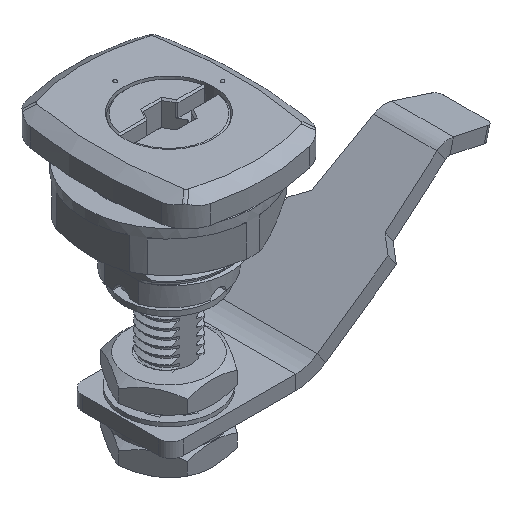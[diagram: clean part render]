
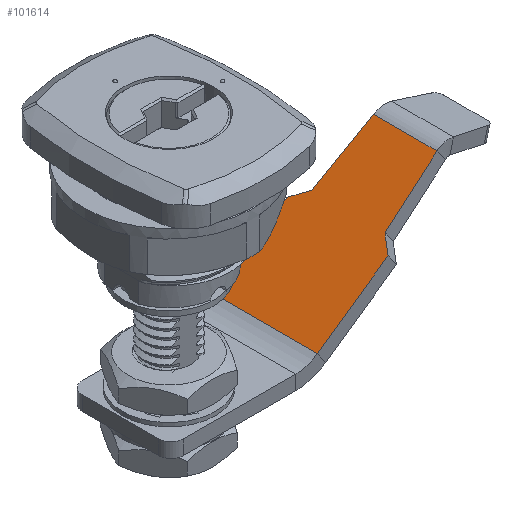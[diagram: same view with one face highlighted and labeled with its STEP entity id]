
A CAD part, isometric view. The second image highlights one B-rep face of the part: STEP entity #101614.
In plain terms, the highlighted planar face has unit normal (-0.574, 0, 0.819).
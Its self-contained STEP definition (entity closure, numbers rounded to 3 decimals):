
#497 = CARTESIAN_POINT ( 'NONE',  ( -4.253, 8.05, -49.486 ) ) ;
#2579 = VERTEX_POINT ( 'NONE', #30396 ) ;
#2926 = VECTOR ( 'NONE', #31905, 1000. ) ;
#3237 = ORIENTED_EDGE ( 'NONE', *, *, #18317, .F. ) ;
#4458 = DIRECTION ( 'NONE',  ( -0.574, 0., 0.819 ) ) ;
#4585 = CARTESIAN_POINT ( 'NONE',  ( 20.703, 6.529, -32.012 ) ) ;
#4709 = VECTOR ( 'NONE', #12491, 1000. ) ;
#6988 = VECTOR ( 'NONE', #54350, 1000. ) ;
#7574 = VECTOR ( 'NONE', #21313, 1000. ) ;
#8483 = VERTEX_POINT ( 'NONE', #84833 ) ;
#8911 = AXIS2_PLACEMENT_3D ( 'NONE', #34586, #4458, #86905 ) ;
#11534 = LINE ( 'NONE', #91393, #61315 ) ;
#12491 = DIRECTION ( 'NONE',  ( 0.817, -0.071, 0.572 ) ) ;
#13153 = LINE ( 'NONE', #94927, #6988 ) ;
#15509 = CARTESIAN_POINT ( 'NONE',  ( 28.513, -5.85, -26.543 ) ) ;
#18317 = EDGE_CURVE ( 'NONE', #36544, #57942, #13153, .T. ) ;
#21313 = DIRECTION ( 'NONE',  ( 0.819, 0., 0.574 ) ) ;
#24853 = CARTESIAN_POINT ( 'NONE',  ( 15.558, 0., -35.615 ) ) ;
#28157 = ORIENTED_EDGE ( 'NONE', *, *, #52645, .T. ) ;
#30353 = CARTESIAN_POINT ( 'NONE',  ( 27.002, -7.784, -27.602 ) ) ;
#30396 = CARTESIAN_POINT ( 'NONE',  ( 37.583, -5.061, -20.193 ) ) ;
#30688 = EDGE_CURVE ( 'NONE', #39794, #2579, #11534, .T. ) ;
#31905 = DIRECTION ( 'NONE',  ( -0.819, 0., -0.574 ) ) ;
#33700 = CARTESIAN_POINT ( 'NONE',  ( 37.583, 5.061, -20.193 ) ) ;
#34586 = CARTESIAN_POINT ( 'NONE',  ( 20.322, 0., -32.279 ) ) ;
#35400 = EDGE_CURVE ( 'NONE', #110600, #8483, #92989, .T. ) ;
#36544 = VERTEX_POINT ( 'NONE', #100068 ) ;
#39794 = VERTEX_POINT ( 'NONE', #33700 ) ;
#40172 = LINE ( 'NONE', #30353, #107408 ) ;
#40233 = VECTOR ( 'NONE', #92065, 1000. ) ;
#42374 = VERTEX_POINT ( 'NONE', #15509 ) ;
#42927 = CARTESIAN_POINT ( 'NONE',  ( -4.253, -8.05, -49.486 ) ) ;
#43239 = DIRECTION ( 'NONE',  ( 0., 1., 0. ) ) ;
#52645 = EDGE_CURVE ( 'NONE', #36544, #8483, #110494, .T. ) ;
#52770 = LINE ( 'NONE', #93369, #40233 ) ;
#53781 = EDGE_CURVE ( 'NONE', #113933, #42374, #40172, .T. ) ;
#54350 = DIRECTION ( 'NONE',  ( 0.566, -0.723, 0.396 ) ) ;
#57942 = VERTEX_POINT ( 'NONE', #79515 ) ;
#59376 = ORIENTED_EDGE ( 'NONE', *, *, #53781, .T. ) ;
#60842 = ORIENTED_EDGE ( 'NONE', *, *, #30688, .F. ) ;
#61315 = VECTOR ( 'NONE', #96523, 1000. ) ;
#65315 = PLANE ( 'NONE',  #8911 ) ;
#73240 = VECTOR ( 'NONE', #43239, 1000. ) ;
#75794 = ORIENTED_EDGE ( 'NONE', *, *, #94436, .F. ) ;
#76906 = EDGE_CURVE ( 'NONE', #110600, #113933, #82199, .T. ) ;
#77080 = FACE_OUTER_BOUND ( 'NONE', #127664, .T. ) ;
#79515 = CARTESIAN_POINT ( 'NONE',  ( 28.513, 5.85, -26.543 ) ) ;
#82199 = LINE ( 'NONE', #42927, #7574 ) ;
#84833 = CARTESIAN_POINT ( 'NONE',  ( 15.558, 8.05, -35.615 ) ) ;
#86905 = DIRECTION ( 'NONE',  ( 0., -1., 0. ) ) ;
#91393 = CARTESIAN_POINT ( 'NONE',  ( 37.583, 0., -20.193 ) ) ;
#92065 = DIRECTION ( 'NONE',  ( 0.817, 0.071, 0.572 ) ) ;
#92989 = LINE ( 'NONE', #24853, #73240 ) ;
#93369 = CARTESIAN_POINT ( 'NONE',  ( 20.703, -6.529, -32.012 ) ) ;
#94436 = EDGE_CURVE ( 'NONE', #57942, #39794, #104738, .T. ) ;
#94927 = CARTESIAN_POINT ( 'NONE',  ( 27.002, 7.784, -27.602 ) ) ;
#96523 = DIRECTION ( 'NONE',  ( 0., -1., 0. ) ) ;
#98160 = ORIENTED_EDGE ( 'NONE', *, *, #76906, .T. ) ;
#99741 = DIRECTION ( 'NONE',  ( 0.566, 0.723, 0.396 ) ) ;
#100068 = CARTESIAN_POINT ( 'NONE',  ( 26.793, 8.05, -27.748 ) ) ;
#101614 = ADVANCED_FACE ( 'NONE', ( #77080 ), #65315, .T. ) ;
#104136 = CARTESIAN_POINT ( 'NONE',  ( 15.558, -8.05, -35.615 ) ) ;
#104738 = LINE ( 'NONE', #4585, #4709 ) ;
#107408 = VECTOR ( 'NONE', #99741, 1000. ) ;
#108537 = ORIENTED_EDGE ( 'NONE', *, *, #122845, .T. ) ;
#110359 = ORIENTED_EDGE ( 'NONE', *, *, #35400, .F. ) ;
#110494 = LINE ( 'NONE', #497, #2926 ) ;
#110600 = VERTEX_POINT ( 'NONE', #104136 ) ;
#113933 = VERTEX_POINT ( 'NONE', #119027 ) ;
#119027 = CARTESIAN_POINT ( 'NONE',  ( 26.793, -8.05, -27.748 ) ) ;
#122845 = EDGE_CURVE ( 'NONE', #42374, #2579, #52770, .T. ) ;
#127664 = EDGE_LOOP ( 'NONE', ( #60842, #75794, #3237, #28157, #110359, #98160, #59376, #108537 ) ) ;
